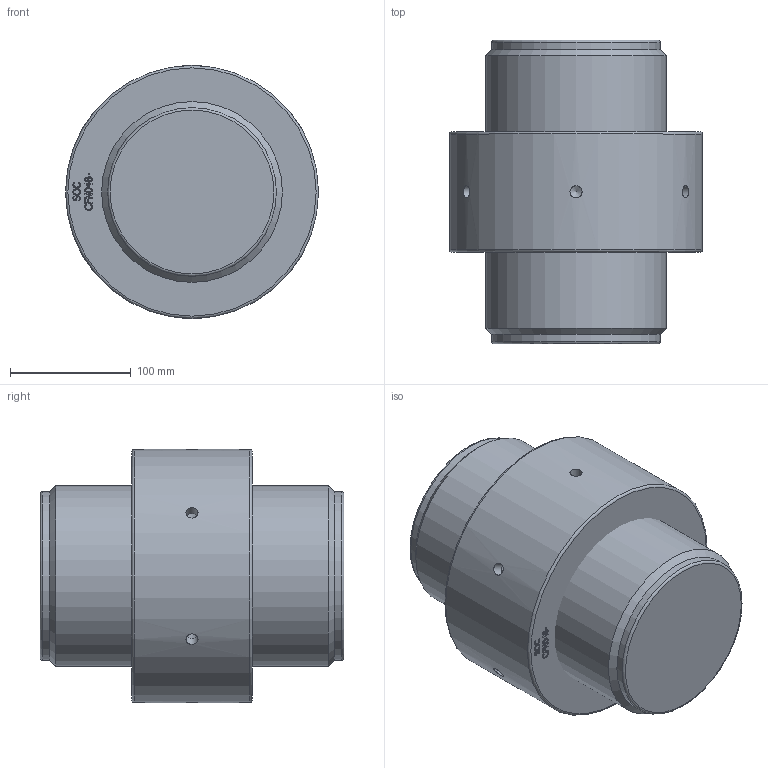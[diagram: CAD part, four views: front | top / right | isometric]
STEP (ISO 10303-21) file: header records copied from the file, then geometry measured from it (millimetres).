
FILE_DESCRIPTION(/* description */ (''),/* implementation_level */ '2;1');
FILE_NAME(/* name */ 'F:\Clienti LS\Redaelli\CYT\CYT\ARRNGEMENT\CYT048 61 061 0.stp',/* time_stamp */ '2021-05-09T08:45:46+02:00',/* author */ ('ranca'),/* organization */ (''),/* preprocessor_version */ 'ST-DEVELOPER v16.13',/* originating_system */ 'Autodesk Inventor 2018',/* authorisation */ '');
FILE_SCHEMA (('AUTOMOTIVE_DESIGN { 1 0 10303 214 3 1 1 }'));
Length unit declared in the file: millimetre
Products named in the file (3): CYT012-61-061-0; CYT012-61-061-0_1; CYT012-61-061-0_DADO
Assembly tree (2 placements, depth 2):
  CYT012-61-061-0
    CYT012-61-061-0_1
    CYT012-61-061-0_DADO
Bounding box: 210 x 252 x 210 mm (x, y, z)
Volume: 6244369 mm3; surface area: 298828.2 mm2
Topology: 2 solids, 2 shells, 348 faces, 941 edges, 627 vertices
Faces by surface type: bspline 186, plane 139, cylinder 11, cone 8, torus 4
Full cylindrical faces by diameter (mm): 10 x6, 140 x2, 143.505 x1, 150 x1, 210 x1
Entity records: 11894 total; most frequent: CARTESIAN_POINT 4500, ORIENTED_EDGE 1810, EDGE_CURVE 905, DIRECTION 875, VERTEX_POINT 614, LINE 501, VECTOR 501, EDGE_LOOP 403
